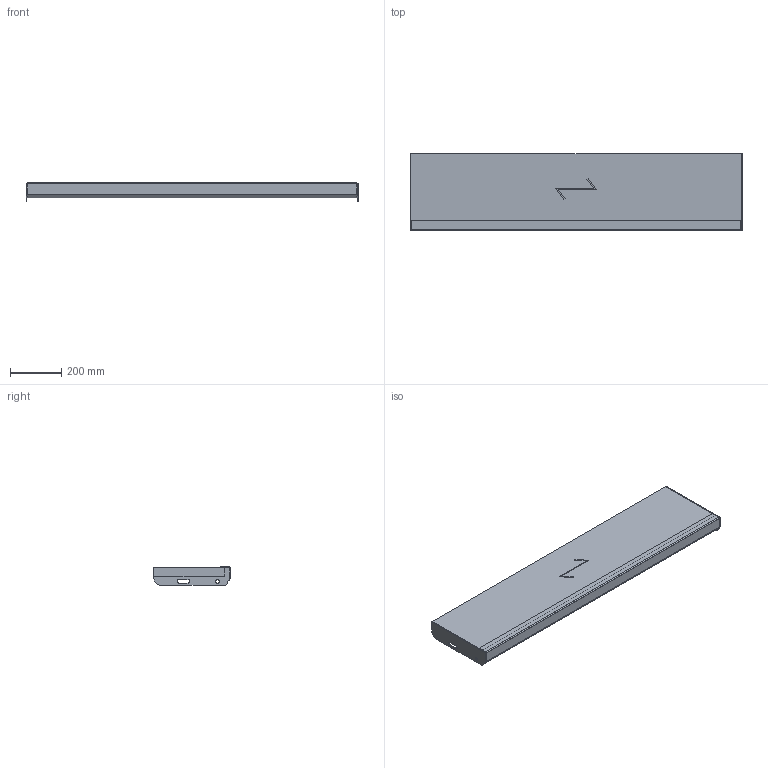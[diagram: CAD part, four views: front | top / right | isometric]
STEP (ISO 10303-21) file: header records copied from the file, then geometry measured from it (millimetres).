
FILE_DESCRIPTION (( 'STEP AP203' ), '1' );
FILE_NAME ('StegTH6-S-nya_steget-1300x300.STEP', '2020-03-04T07:46:21', ( '' ), ( '' ), 'SwSTEP 2.0', 'SolidWorks 2019', '' );
FILE_SCHEMA (( 'CONFIG_CONTROL_DESIGN' ));
Length unit declared in the file: millimetre
Products named in the file (5): SW0000039689; SW0000039009; StegTH6-S-nya_steget-1300x300; SW0000039255; SW0000038703
Assembly tree (5 placements, depth 3):
  StegTH6-S-nya_steget-1300x300
    SW0000039689
      SW0000039009
      SW0000039255
      SW0000038703  x2
Bounding box: 1300 x 300 x 72 mm (x, y, z)
Volume: 12917718.3 mm3; surface area: 1170646.7 mm2
Topology: 4 solids, 4 shells, 67 faces, 158 edges, 100 vertices
Faces by surface type: plane 51, cylinder 16
Entity records: 2002 total; most frequent: DIRECTION 261, CARTESIAN_POINT 254, ORIENTED_EDGE 238, EDGE_CURVE 119, VECTOR 99, LINE 99, AXIS2_PLACEMENT_3D 81, VERTEX_POINT 74
